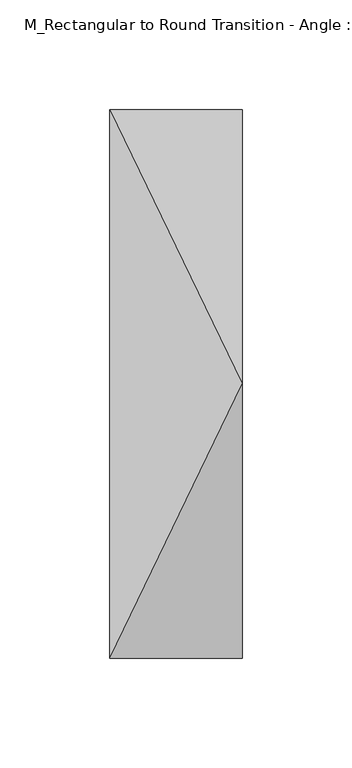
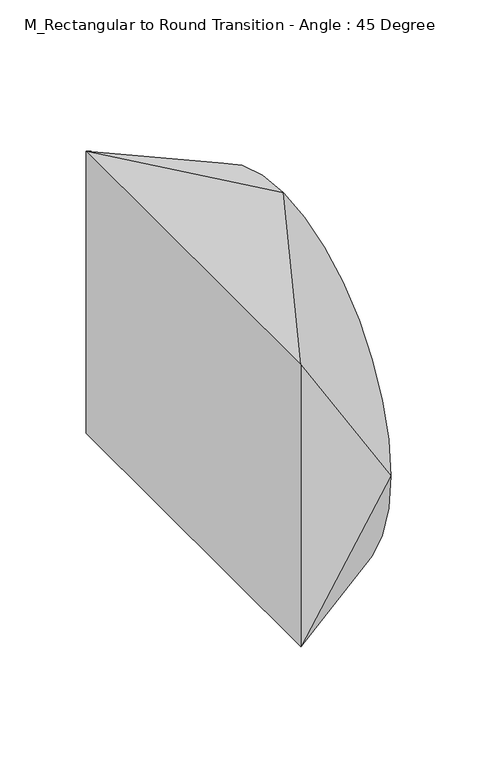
"""IFC4 building model written with IfcOpenShell, lengths in millimetres: duct fitting geometry, M_Rectangular to Round Transition - Angle : 45 Degree."""

from ifc_helpers import new_model, si_unit, frame, origin, place, context, project, spatial, circle_curve, source, transform, mapped, element, save
from ifc_brep_helpers import plane_surface, spline_surface, advanced_brep


def m_rectangular_to_round_transition_angle_45_degree_06170b8a(model_context):
    return source(origin(), model_context, "Body", "AdvancedBrep", [
        advanced_brep(
        [(0.0, -125.0, -100.0), (0.0, -125.0, 100.0), (0.0, 125.0, 100.0), (0.0, 125.0, -100.0), (60.3553391, -125.0, 0.0), (60.3553391, 0.0, -125.0), (60.3553391, 125.0, 0.0), (60.3553391, 0.0, 125.0)],
        [
            (0, 1),
            (1, 2),
            (2, 3),
            (3, 0),
            (4, 5, circle_curve(frame((60.3553391, 0.0, 0.0), z_axis=(1.0, 0.0, 0.0), x_axis=(0.0, -1.0, 0.0)), 125.0)),
            (5, 6, circle_curve(frame((60.3553391, 0.0, 0.0), z_axis=(1.0, 0.0, 0.0), x_axis=(0.0, -1.0, 0.0)), 125.0)),
            (6, 7, circle_curve(frame((60.3553391, 0.0, 0.0), z_axis=(1.0, 0.0, 0.0), x_axis=(0.0, -1.0, 0.0)), 125.0)),
            (7, 4, circle_curve(frame((60.3553391, 0.0, 0.0), z_axis=(1.0, 0.0, 0.0), x_axis=(0.0, -1.0, 0.0)), 125.0)),
            (0, 4),
            (4, 1),
            (7, 1),
            (7, 2),
            (6, 2),
            (6, 3),
            (5, 3),
            (5, 0),
        ],
        [
            plane_surface(frame((0.0, 0.0, 0.0), z_axis=(-1.0, 0.0, 0.0), x_axis=(0.0, 1.0, 0.0))),
            plane_surface(frame((60.3553391, 0.0, 0.0), z_axis=(1.0, 0.0, 0.0), x_axis=(0.0, 1.0, 0.0))),
            plane_surface(frame((60.3553391, -125.0, 0.0), z_axis=(0.0, -1.0, 0.0), x_axis=(0.0, 0.0, 1.0))),
            spline_surface(2, 1, [[(60.3553391, -125.0, 0.0), (0.0, -125.0, 100.0)], [(60.3553391, -125.0, 125.0), (0.0, -125.0, 100.0)], [(60.3553391, 0.0, 125.0), (0.0, -125.0, 100.0)]], [3, 3], [2, 2], [0.0, 1.0], [0.0, 1.0], weights=[[1.0, 1.0], [0.7071067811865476, 0.7071067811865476], [1.0, 1.0]]),
            plane_surface(frame((60.3553391, 0.0, 125.0), z_axis=(-0.38268343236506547, 0.0, 0.9238795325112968), x_axis=(0.0, 1.0, 0.0))),
            spline_surface(2, 1, [[(60.3553391, 0.0, 125.0), (0.0, 125.0, 100.0)], [(60.3553391, 125.0, 125.0), (0.0, 125.0, 100.0)], [(60.3553391, 125.0, 0.0), (0.0, 125.0, 100.0)]], [3, 3], [2, 2], [0.0, 1.0], [0.0, 1.0], weights=[[1.0, 1.0], [0.7071067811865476, 0.7071067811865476], [1.0, 1.0]]),
            plane_surface(frame((60.3553391, 125.0, 0.0), z_axis=(0.0, 1.0, 0.0), x_axis=(0.0, 0.0, -1.0))),
            spline_surface(2, 1, [[(60.3553391, 125.0, 0.0), (0.0, 125.0, -100.0)], [(60.3553391, 125.0, -125.0), (0.0, 125.0, -100.0)], [(60.3553391, 0.0, -125.0), (0.0, 125.0, -100.0)]], [3, 3], [2, 2], [0.0, 1.0], [0.0, 1.0], weights=[[1.0, 1.0], [0.7071067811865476, 0.7071067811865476], [1.0, 1.0]]),
            plane_surface(frame((60.3553391, 0.0, -125.0), z_axis=(-0.3826834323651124, 0.0, -0.9238795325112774), x_axis=(0.0, -1.0, 0.0))),
            spline_surface(2, 1, [[(60.3553391, 0.0, -125.0), (0.0, -125.0, -100.0)], [(60.3553391, -125.0, -125.0), (0.0, -125.0, -100.0)], [(60.3553391, -125.0, 0.0), (0.0, -125.0, -100.0)]], [3, 3], [2, 2], [0.0, 1.0], [0.0, 1.0], weights=[[1.0, 1.0], [0.7071067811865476, 0.7071067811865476], [1.0, 1.0]]),
        ],
        [
            (0, [[1, 2, 3, 4]]),
            (1, [[5, 6, 7, 8]]),
            (2, [[-1, 9, 10]]),
            (3, [[-8, 11, -10]]),
            (4, [[-2, -11, 12]]),
            (5, [[-7, 13, -12]]),
            (6, [[-3, -13, 14]]),
            (7, [[-6, 15, -14]]),
            (8, [[-4, -15, 16]]),
            (9, [[-5, -9, -16]]),
        ],
    ),
        advanced_brep(
        [(0.0, -125.0, -100.0), (0.0, -125.0, 100.0), (0.0, 125.0, 100.0), (0.0, 125.0, -100.0), (60.3553391, -125.0, 0.0), (60.3553391, 0.0, -125.0), (60.3553391, 125.0, 0.0), (60.3553391, 0.0, 125.0)],
        [
            (0, 1),
            (1, 2),
            (2, 3),
            (3, 0),
            (4, 5, circle_curve(frame((60.3553391, 0.0, 0.0), z_axis=(1.0, 0.0, 0.0), x_axis=(0.0, -1.0, 0.0)), 125.0)),
            (5, 6, circle_curve(frame((60.3553391, 0.0, 0.0), z_axis=(1.0, 0.0, 0.0), x_axis=(0.0, -1.0, 0.0)), 125.0)),
            (6, 7, circle_curve(frame((60.3553391, 0.0, 0.0), z_axis=(1.0, 0.0, 0.0), x_axis=(0.0, -1.0, 0.0)), 125.0)),
            (7, 4, circle_curve(frame((60.3553391, 0.0, 0.0), z_axis=(1.0, 0.0, 0.0), x_axis=(0.0, -1.0, 0.0)), 125.0)),
            (0, 4),
            (4, 1),
            (7, 1),
            (7, 2),
            (6, 2),
            (6, 3),
            (5, 3),
            (5, 0),
        ],
        [
            plane_surface(frame((0.0, 0.0, 0.0), z_axis=(-1.0, 0.0, 0.0), x_axis=(0.0, 1.0, 0.0))),
            plane_surface(frame((60.3553391, 0.0, 0.0), z_axis=(1.0, 0.0, 0.0), x_axis=(0.0, 1.0, 0.0))),
            plane_surface(frame((60.3553391, -125.0, 0.0), z_axis=(0.0, -1.0, 0.0), x_axis=(0.0, 0.0, 1.0))),
            spline_surface(2, 1, [[(60.3553391, -125.0, 0.0), (0.0, -125.0, 100.0)], [(60.3553391, -125.0, 125.0), (0.0, -125.0, 100.0)], [(60.3553391, 0.0, 125.0), (0.0, -125.0, 100.0)]], [3, 3], [2, 2], [0.0, 1.0], [0.0, 1.0], weights=[[1.0, 1.0], [0.7071067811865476, 0.7071067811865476], [1.0, 1.0]]),
            plane_surface(frame((60.3553391, 0.0, 125.0), z_axis=(-0.3826834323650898, 0.0, 0.9238795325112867), x_axis=(0.0, 1.0, 0.0))),
            spline_surface(2, 1, [[(60.3553391, 0.0, 125.0), (0.0, 125.0, 100.0)], [(60.3553391, 125.0, 125.0), (0.0, 125.0, 100.0)], [(60.3553391, 125.0, 0.0), (0.0, 125.0, 100.0)]], [3, 3], [2, 2], [0.0, 1.0], [0.0, 1.0], weights=[[1.0, 1.0], [0.7071067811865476, 0.7071067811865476], [1.0, 1.0]]),
            plane_surface(frame((60.3553391, 125.0, 0.0), z_axis=(0.0, 1.0, 0.0), x_axis=(0.0, 0.0, -1.0))),
            spline_surface(2, 1, [[(60.3553391, 125.0, 0.0), (0.0, 125.0, -100.0)], [(60.3553391, 125.0, -125.0), (0.0, 125.0, -100.0)], [(60.3553391, 0.0, -125.0), (0.0, 125.0, -100.0)]], [3, 3], [2, 2], [0.0, 1.0], [0.0, 1.0], weights=[[1.0, 1.0], [0.7071067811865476, 0.7071067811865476], [1.0, 1.0]]),
            plane_surface(frame((60.3553391, 0.0, -125.0), z_axis=(-0.3826834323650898, 0.0, -0.9238795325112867), x_axis=(0.0, -1.0, 0.0))),
            spline_surface(2, 1, [[(60.3553391, 0.0, -125.0), (0.0, -125.0, -100.0)], [(60.3553391, -125.0, -125.0), (0.0, -125.0, -100.0)], [(60.3553391, -125.0, 0.0), (0.0, -125.0, -100.0)]], [3, 3], [2, 2], [0.0, 1.0], [0.0, 1.0], weights=[[1.0, 1.0], [0.7071067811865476, 0.7071067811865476], [1.0, 1.0]]),
        ],
        [
            (0, [[1, 2, 3, 4]]),
            (1, [[5, 6, 7, 8]]),
            (2, [[-1, 9, 10]]),
            (3, [[-8, 11, -10]]),
            (4, [[-2, -11, 12]]),
            (5, [[-7, 13, -12]]),
            (6, [[-3, -13, 14]]),
            (7, [[-6, 15, -14]]),
            (8, [[-4, -15, 16]]),
            (9, [[-5, -9, -16]]),
        ],
    ),
        advanced_brep(
        [(60.3553391, 0.0, 125.0), (60.3553391, -125.0, 0.0), (60.3553391, 0.0, -125.0), (60.3553391, 125.0, 0.0), (0.0, -125.0, 100.0), (0.0, 125.0, 100.0), (0.0, 125.0, -100.0), (0.0, -125.0, -100.0)],
        [
            (0, 1, circle_curve(frame((60.3553391, 0.0, 0.0), z_axis=(1.0, 0.0, 0.0), x_axis=(0.0, 1.0, 0.0)), 125.0)),
            (1, 2, circle_curve(frame((60.3553391, 0.0, 0.0), z_axis=(1.0, 0.0, 0.0), x_axis=(0.0, 1.0, 0.0)), 125.0)),
            (2, 3, circle_curve(frame((60.3553391, 0.0, 0.0), z_axis=(1.0, 0.0, 0.0), x_axis=(0.0, 1.0, 0.0)), 125.0)),
            (3, 0, circle_curve(frame((60.3553391, 0.0, 0.0), z_axis=(1.0, 0.0, 0.0), x_axis=(0.0, 1.0, 0.0)), 125.0)),
            (4, 5),
            (5, 6),
            (6, 7),
            (7, 4),
            (0, 4),
            (4, 1),
            (7, 1),
            (7, 2),
            (6, 2),
            (6, 3),
            (5, 3),
            (5, 0),
        ],
        [
            plane_surface(frame((60.3553391, 0.0, 0.0), z_axis=(1.0, 0.0, 0.0), x_axis=(0.0, 0.0, -1.0))),
            plane_surface(frame((0.0, 0.0, 0.0), z_axis=(-1.0, 0.0, 0.0), x_axis=(0.0, 0.0, -1.0))),
            spline_surface(2, 1, [[(0.0, -125.0, 100.0), (60.3553391, 0.0, 125.0)], [(0.0, -125.0, 100.0), (60.3553391, -125.0, 125.0)], [(0.0, -125.0, 100.0), (60.3553391, -125.0, 0.0)]], [3, 3], [2, 2], [0.0, 1.0], [0.0, 1.0], weights=[[1.0, 1.0], [0.7071067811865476, 0.7071067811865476], [1.0, 1.0]]),
            plane_surface(frame((0.0, -125.0, 0.0), z_axis=(0.0, -1.0, 0.0), x_axis=(0.0, 0.0, -1.0))),
            spline_surface(2, 1, [[(0.0, -125.0, -100.0), (60.3553391, -125.0, 0.0)], [(0.0, -125.0, -100.0), (60.3553391, -125.0, -125.0)], [(0.0, -125.0, -100.0), (60.3553391, 0.0, -125.0)]], [3, 3], [2, 2], [0.0, 1.0], [0.0, 1.0], weights=[[1.0, 1.0], [0.7071067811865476, 0.7071067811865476], [1.0, 1.0]]),
            plane_surface(frame((0.0, 0.0, -100.0), z_axis=(-0.3826834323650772, 0.0, -0.923879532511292), x_axis=(0.0, 1.0, 0.0))),
            spline_surface(2, 1, [[(0.0, 125.0, -100.0), (60.3553391, 0.0, -125.0)], [(0.0, 125.0, -100.0), (60.3553391, 125.0, -125.0)], [(0.0, 125.0, -100.0), (60.3553391, 125.0, 0.0)]], [3, 3], [2, 2], [0.0, 1.0], [0.0, 1.0], weights=[[1.0, 1.0], [0.7071067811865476, 0.7071067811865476], [1.0, 1.0]]),
            plane_surface(frame((0.0, 125.0, 0.0), z_axis=(0.0, 1.0, 0.0), x_axis=(0.0, 0.0, 1.0))),
            spline_surface(2, 1, [[(0.0, 125.0, 100.0), (60.3553391, 125.0, 0.0)], [(0.0, 125.0, 100.0), (60.3553391, 125.0, 125.0)], [(0.0, 125.0, 100.0), (60.3553391, 0.0, 125.0)]], [3, 3], [2, 2], [0.0, 1.0], [0.0, 1.0], weights=[[1.0, 1.0], [0.7071067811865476, 0.7071067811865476], [1.0, 1.0]]),
            plane_surface(frame((0.0, 0.0, 100.0), z_axis=(-0.3826834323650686, 0.0, 0.9238795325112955), x_axis=(0.0, -1.0, 0.0))),
        ],
        [
            (0, [[1, 2, 3, 4]]),
            (1, [[5, 6, 7, 8]]),
            (2, [[-1, 9, 10]]),
            (3, [[-8, 11, -10]]),
            (4, [[-2, -11, 12]]),
            (5, [[-7, 13, -12]]),
            (6, [[-3, -13, 14]]),
            (7, [[-6, 15, -14]]),
            (8, [[-4, -15, 16]]),
            (9, [[-5, -9, -16]]),
        ],
    ),
    ])


if __name__ == "__main__":
    model = new_model("IFC4")
    model_context = context("Model", 3, world=origin())
    ifc_project = project(units=[si_unit("LENGTHUNIT", "METRE", prefix="MILLI")], contexts=[model_context])
    site = spatial("IfcSite", under=ifc_project)
    building = spatial("IfcBuilding", under=site)
    placement = place(None, origin())
    m_rectangular_to_round_transition_angle_45_degree_shape = m_rectangular_to_round_transition_angle_45_degree_06170b8a(model_context)
    element("IfcDuctFitting", 1, ObjectType="M_Rectangular to Round Transition - Angle : 45 Degree", at=placement, inside=building, context=model_context, shape_type="MappedRepresentation", body=[
        mapped(m_rectangular_to_round_transition_angle_45_degree_shape, transform((0.0, 0.0, 0.0), x_axis=(1.0, 0.0, 0.0), y_axis=(0.0, 1.0, 0.0), z_axis=(0.0, 0.0, 1.0))),
    ])
    save(model, "model.ifc")
